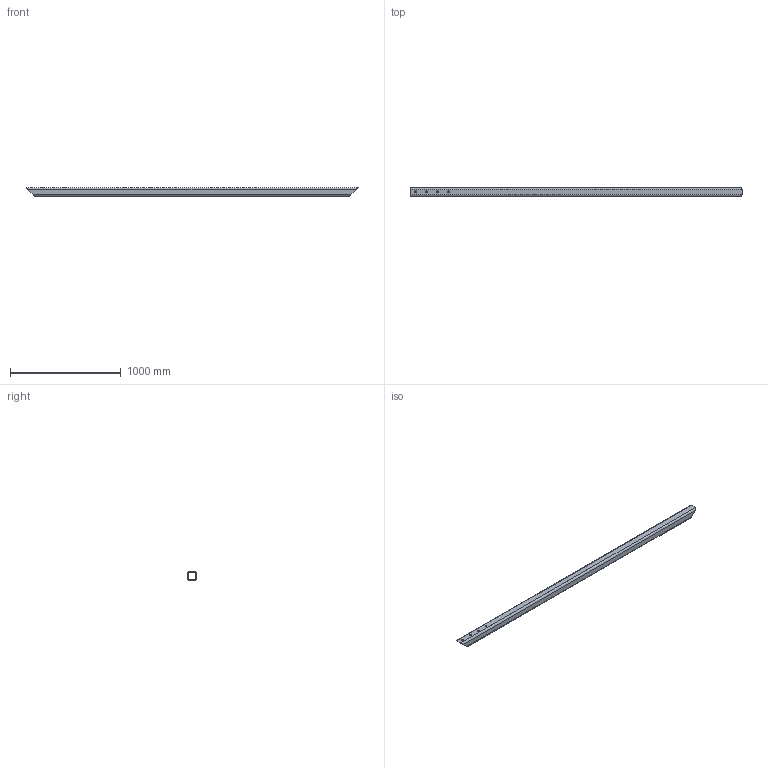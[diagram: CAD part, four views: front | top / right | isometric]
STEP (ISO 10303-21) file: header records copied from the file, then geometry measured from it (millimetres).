
FILE_DESCRIPTION(('Open CASCADE Model'),'2;1');
FILE_NAME('Open CASCADE Shape Model','2016-07-12T10:39:27',('Author'),( 'Open CASCADE'),'Open CASCADE STEP processor 6.8','Open CASCADE 6.8' ,'Unknown');
FILE_SCHEMA(('AUTOMOTIVE_DESIGN_CC2 { 1 2 10303 214 -1 1 5 4 }'));
Length unit declared in the file: millimetre
Products named in the file (1): Open CASCADE STEP translator 6.8 1
Bounding box: 3000 x 80 x 80 mm (x, y, z)
Volume: 6215660 mm3; surface area: 1566299 mm2
Topology: 1 solids, 1 shells, 31 faces, 87 edges, 58 vertices
Faces by surface type: cylinder 21, plane 10
Full cylindrical faces by diameter (mm): 18 x4, 20 x9
Entity records: 2272 total; most frequent: CARTESIAN_POINT 595, DIRECTION 275, ORIENTED_EDGE 174, PCURVE 174, DEFINITIONAL_REPRESENTATION 174, LINE 93, VECTOR 93, EDGE_CURVE 87
